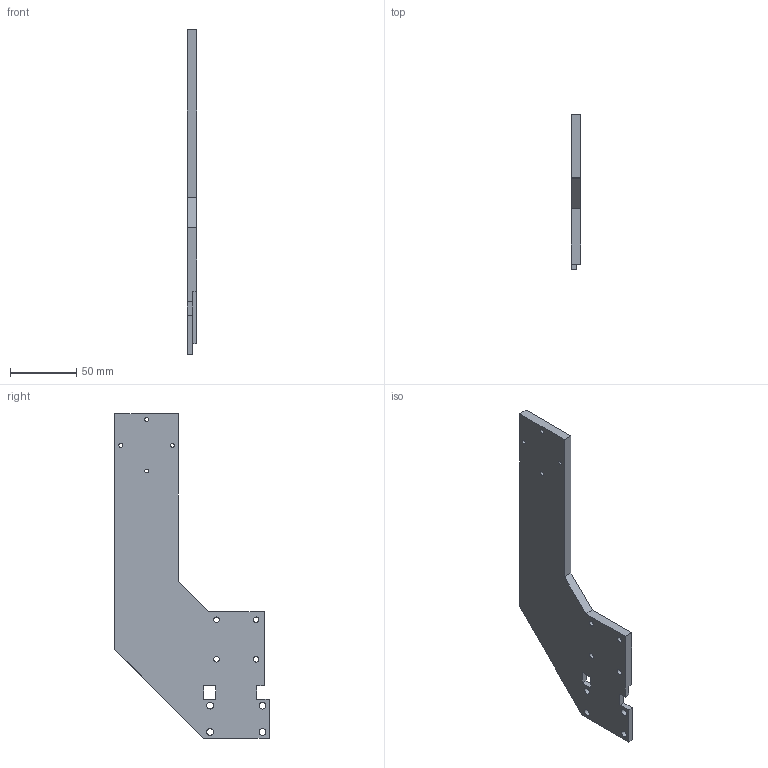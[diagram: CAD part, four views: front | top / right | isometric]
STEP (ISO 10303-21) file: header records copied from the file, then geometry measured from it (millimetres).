
FILE_DESCRIPTION(/* description */ ('STEP AP242 Edition 2','CAx-IF Rec.Pracs.---Representation and Presentation of Product Manufacturing Information (PMI)---4.0---2014-10-13','CAx-IF Rec.Pracs.---3D Tessellated Geometry---0.4---2014-09-14','2;1','CAx-IF Rec.Pracs.---User Defined Attributes---1.5---2016-08-15'),/* implementation_level */ '2;1');
FILE_NAME(/* name */ 'Y-Axis Lift Bracket (Right)',/* time_stamp */ '2025-11-29T19:52:45Z',/* author */ (''),/* organization */ (''),/* preprocessor_version */ 'ST-DEVELOPER v20',/* originating_system */ 'ONSHAPE BY PTC INC, 1.207',/* authorisation */ ' ');
FILE_SCHEMA (('AP242_MANAGED_MODEL_BASED_3D_ENGINEERING_MIM_LF { 1 0 10303 442 3 1 4 }'));
Length unit declared in the file: metre
Products named in the file (1): Part 1
Bounding box: 7 x 116.72 x 245.99 mm (x, y, z)
Volume: 103648.7 mm3; surface area: 37432.6 mm2
Topology: 1 solids, 1 shells, 33 faces, 93 edges, 62 vertices
Faces by surface type: plane 21, cylinder 12
Full cylindrical faces by diameter (mm): 3 x4, 4.2 x4, 5.1 x4
Entity records: 1085 total; most frequent: CARTESIAN_POINT 177, DIRECTION 173, ORIENTED_EDGE 162, EDGE_CURVE 81, EDGE_LOOP 71, FACE_BOUND 71, VERTEX_POINT 62, AXIS2_PLACEMENT_3D 58
